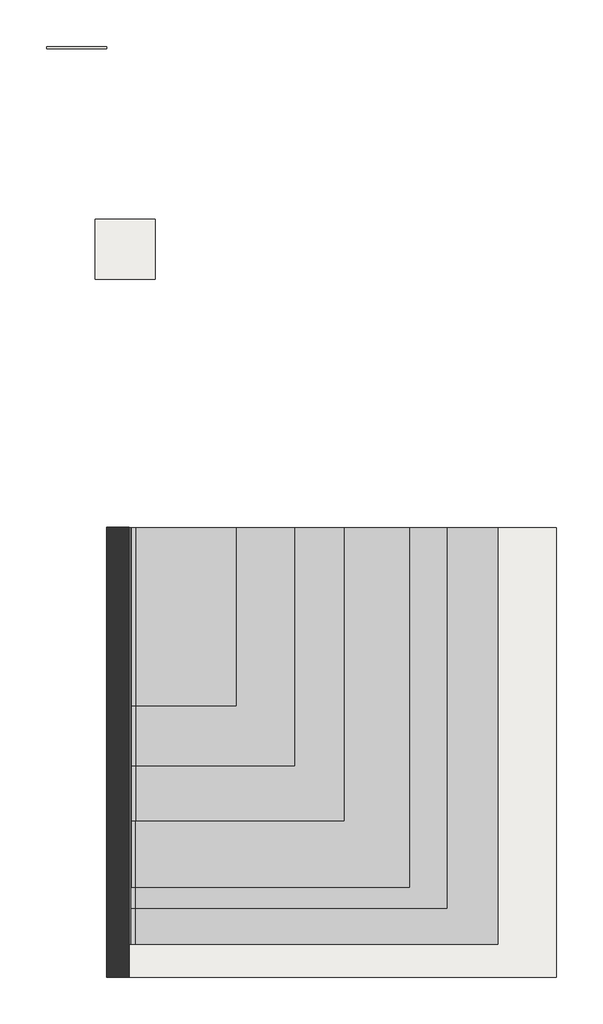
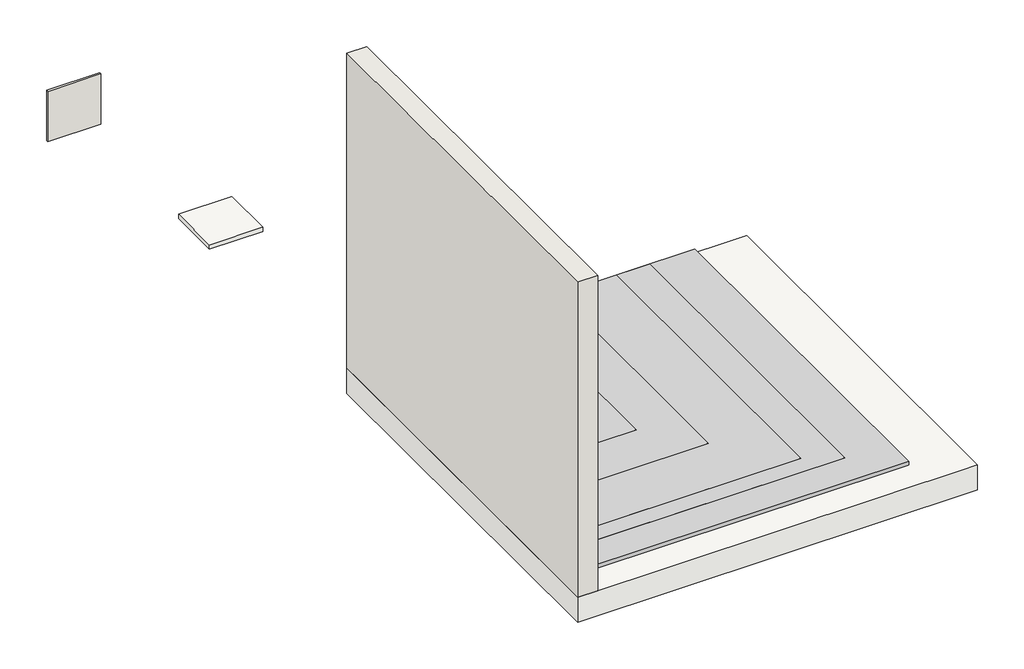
# One storey: 2 slabs, 2 walls, 1 proxy.
"""IFC4 building model written with IfcOpenShell, lengths in millimetres."""

from ifc_helpers import new_model, si_unit, frame, origin, place, context, project, spatial, polyline, outline, extrude, transform, mapped, element, save
from components import generic_models_83c96165

model = new_model("IFC4")

# Units and contexts
model_context = context("Model", 3, world=origin())
ifc_project = project(units=[si_unit("LENGTHUNIT", "METRE", prefix="MILLI")], contexts=[model_context])

# Site, building, storey
site = spatial("IfcSite", under=ifc_project)
building = spatial("IfcBuilding", under=site)
storey = spatial("IfcBuildingStorey", under=building, Name="ARQ Térreo", Elevation=-2.523798)

# Proxy
placement = place(None, origin())
generic_models_shape = generic_models_83c96165(model_context)
element("IfcBuildingElementProxy", 1, Name="IMPER:IMPER:433934 : IMPER:IMPER:433934", ObjectType="IMPER:IMPER:433934 : IMPER:IMPER:433934", at=placement, inside=storey, context=model_context, shape_type="MappedRepresentation", body=[
    mapped(generic_models_shape, transform((0.0, 0.0, 0.0), x_axis=(1.0, 0.0, 0.0), y_axis=(0.0, 1.0, 0.0), z_axis=(0.0, 0.0, 1.0))),
])

# Slabs
element("IfcSlab", 2, ObjectType="IMPH_VLK vagas", at=placement, inside=storey, context=model_context, shape_type="SweptSolid", body=[
    extrude(outline(polyline([(-577.7383919, 2201.9583702), (-177.7383919, 2201.9583702), (-177.7383919, 1801.9583702), (-577.7383919, 1801.9583702), (-577.7383919, 2201.9583702)])), frame((0.0, 0.0, -36.523798), z_axis=(0.0, 0.0, 1.0), x_axis=(1.0, 0.0, 0.0)), (0.0, 0.0, 1.0), 34.0),
])
element("IfcSlab", 3, ObjectType="Piso:LAJE CONCRETO", at=placement, inside=storey, context=model_context, shape_type="SweptSolid", body=[
    extrude(outline(polyline([(-501.9704105, 145.8700195), (2498.0295895, 145.8700195), (2498.0295895, -2854.1299805), (-501.9704105, -2854.1299805), (-501.9704105, 145.8700195)])), frame((0.0, 0.0, -202.523798), z_axis=(0.0, 0.0, 1.0), x_axis=(1.0, 0.0, 0.0)), (0.0, 0.0, 1.0), 200.0),
])

# Walls
element("IfcWall", 4, ObjectType="Parede básica:Parede Concreto", at=placement, inside=storey, context=model_context, shape_type="SweptSolid", body=[
    extrude(outline(polyline([(-501.9704105, -2854.1299805), (-501.9704105, 145.8700195), (-351.9704105, 145.8700195), (-351.9704105, -2854.1299805), (-501.9704105, -2854.1299805)])), frame((0.0, 0.0, -2.523798), z_axis=(0.0, 0.0, 1.0), x_axis=(1.0, 0.0, 0.0)), (0.0, 0.0, 1.0), 2500.0),
])
element("IfcWall", 5, ObjectType="IMPV_VLK vagas", at=placement, inside=storey, context=model_context, shape_type="SweptSolid", body=[
    extrude(outline(polyline([(-903.4077064, 3352.8700195), (-503.4077064, 3352.8700195), (-503.4077064, 3338.8700195), (-903.4077064, 3338.8700195), (-903.4077064, 3352.8700195)])), frame((0.0, 0.0, -2.523798), z_axis=(0.0, 0.0, 1.0), x_axis=(1.0, 0.0, 0.0)), (0.0, 0.0, 1.0), 400.0),
])

save(model, "model.ifc")
